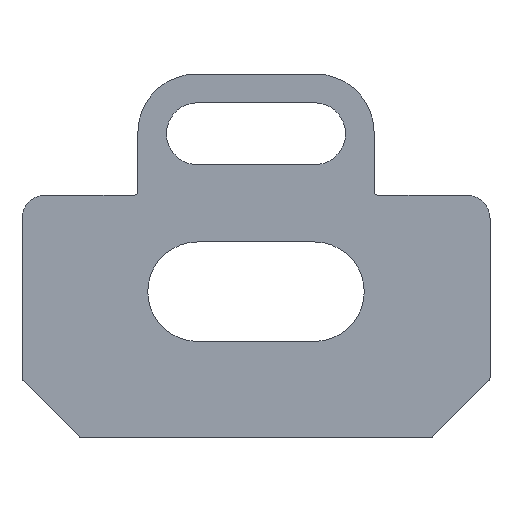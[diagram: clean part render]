
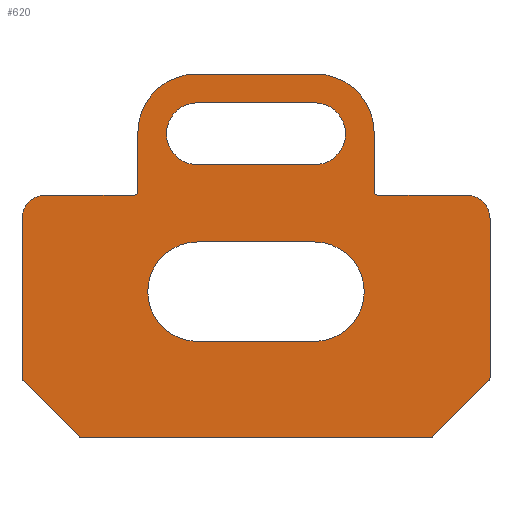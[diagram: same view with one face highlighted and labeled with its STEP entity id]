
A CAD part, front view. The second image highlights one B-rep face of the part: STEP entity #620.
In plain terms, the highlighted planar face has unit normal (0, -1, 0).
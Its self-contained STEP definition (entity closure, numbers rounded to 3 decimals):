
#16=FACE_BOUND('',#122,.T.);
#17=FACE_BOUND('',#123,.T.);
#18=CIRCLE('',#643,2.65);
#20=CIRCLE('',#647,2.65);
#22=CIRCLE('',#650,4.25);
#24=CIRCLE('',#654,4.25);
#27=CIRCLE('',#659,0.3);
#37=CIRCLE('',#672,0.3);
#38=CIRCLE('',#675,0.3);
#39=CIRCLE('',#678,0.3);
#40=CIRCLE('',#680,0.3);
#41=CIRCLE('',#683,0.3);
#42=CIRCLE('',#686,2.);
#43=CIRCLE('',#689,2.);
#44=CIRCLE('',#692,5.);
#45=CIRCLE('',#695,5.);
#89=FACE_OUTER_BOUND('',#121,.T.);
#121=EDGE_LOOP('',(#516,#517,#518,#519,#520,#521,#522,#523,#524,#525,#526,
#527,#528,#529,#530,#531,#532,#533,#534,#535));
#122=EDGE_LOOP('',(#536,#537,#538,#539));
#123=EDGE_LOOP('',(#540,#541,#542,#543));
#124=LINE('',#877,#180);
#129=LINE('',#891,#185);
#134=LINE('',#909,#190);
#138=LINE('',#920,#194);
#144=LINE('',#936,#200);
#156=LINE('',#980,#212);
#159=LINE('',#989,#215);
#165=LINE('',#1004,#221);
#169=LINE('',#1014,#225);
#171=LINE('',#1020,#227);
#173=LINE('',#1026,#229);
#176=LINE('',#1034,#232);
#178=LINE('',#1040,#234);
#179=LINE('',#1042,#235);
#180=VECTOR('',#703,10.);
#185=VECTOR('',#716,10.);
#190=VECTOR('',#735,10.);
#194=VECTOR('',#747,10.);
#200=VECTOR('',#761,10.);
#212=VECTOR('',#799,10.);
#215=VECTOR('',#808,10.);
#221=VECTOR('',#824,10.);
#225=VECTOR('',#834,10.);
#227=VECTOR('',#842,10.);
#229=VECTOR('',#850,10.);
#232=VECTOR('',#859,10.);
#234=VECTOR('',#867,10.);
#235=VECTOR('',#870,10.);
#236=VERTEX_POINT('',#875);
#237=VERTEX_POINT('',#876);
#240=VERTEX_POINT('',#884);
#242=VERTEX_POINT('',#890);
#244=VERTEX_POINT('',#899);
#245=VERTEX_POINT('',#900);
#248=VERTEX_POINT('',#908);
#250=VERTEX_POINT('',#914);
#254=VERTEX_POINT('',#926);
#255=VERTEX_POINT('',#928);
#257=VERTEX_POINT('',#934);
#275=VERTEX_POINT('',#974);
#276=VERTEX_POINT('',#978);
#277=VERTEX_POINT('',#982);
#278=VERTEX_POINT('',#983);
#279=VERTEX_POINT('',#988);
#280=VERTEX_POINT('',#992);
#281=VERTEX_POINT('',#996);
#282=VERTEX_POINT('',#998);
#283=VERTEX_POINT('',#1002);
#284=VERTEX_POINT('',#1006);
#285=VERTEX_POINT('',#1008);
#286=VERTEX_POINT('',#1012);
#287=VERTEX_POINT('',#1016);
#288=VERTEX_POINT('',#1022);
#289=VERTEX_POINT('',#1028);
#290=VERTEX_POINT('',#1032);
#291=VERTEX_POINT('',#1036);
#292=EDGE_CURVE('',#236,#237,#124,.T.);
#296=EDGE_CURVE('',#237,#240,#18,.T.);
#299=EDGE_CURVE('',#240,#242,#129,.T.);
#302=EDGE_CURVE('',#242,#236,#20,.T.);
#304=EDGE_CURVE('',#244,#245,#22,.T.);
#308=EDGE_CURVE('',#245,#248,#134,.T.);
#311=EDGE_CURVE('',#248,#250,#24,.T.);
#314=EDGE_CURVE('',#250,#244,#138,.T.);
#318=EDGE_CURVE('',#254,#255,#27,.T.);
#322=EDGE_CURVE('',#257,#254,#144,.T.);
#341=EDGE_CURVE('',#275,#257,#37,.T.);
#344=EDGE_CURVE('',#275,#276,#156,.T.);
#345=EDGE_CURVE('',#277,#278,#38,.T.);
#348=EDGE_CURVE('',#278,#279,#159,.T.);
#350=EDGE_CURVE('',#279,#280,#39,.T.);
#353=EDGE_CURVE('',#281,#282,#40,.T.);
#356=EDGE_CURVE('',#281,#283,#165,.T.);
#358=EDGE_CURVE('',#284,#285,#41,.T.);
#361=EDGE_CURVE('',#284,#286,#169,.T.);
#362=EDGE_CURVE('',#287,#276,#42,.T.);
#364=EDGE_CURVE('',#287,#282,#171,.T.);
#365=EDGE_CURVE('',#288,#286,#43,.T.);
#367=EDGE_CURVE('',#288,#280,#173,.T.);
#368=EDGE_CURVE('',#289,#283,#44,.T.);
#371=EDGE_CURVE('',#289,#290,#176,.T.);
#372=EDGE_CURVE('',#291,#290,#45,.T.);
#374=EDGE_CURVE('',#291,#285,#178,.T.);
#375=EDGE_CURVE('',#277,#255,#179,.T.);
#516=ORIENTED_EDGE('',*,*,#318,.F.);
#517=ORIENTED_EDGE('',*,*,#322,.F.);
#518=ORIENTED_EDGE('',*,*,#341,.F.);
#519=ORIENTED_EDGE('',*,*,#344,.T.);
#520=ORIENTED_EDGE('',*,*,#362,.F.);
#521=ORIENTED_EDGE('',*,*,#364,.T.);
#522=ORIENTED_EDGE('',*,*,#353,.F.);
#523=ORIENTED_EDGE('',*,*,#356,.T.);
#524=ORIENTED_EDGE('',*,*,#368,.F.);
#525=ORIENTED_EDGE('',*,*,#371,.T.);
#526=ORIENTED_EDGE('',*,*,#372,.F.);
#527=ORIENTED_EDGE('',*,*,#374,.T.);
#528=ORIENTED_EDGE('',*,*,#358,.F.);
#529=ORIENTED_EDGE('',*,*,#361,.T.);
#530=ORIENTED_EDGE('',*,*,#365,.F.);
#531=ORIENTED_EDGE('',*,*,#367,.T.);
#532=ORIENTED_EDGE('',*,*,#350,.F.);
#533=ORIENTED_EDGE('',*,*,#348,.F.);
#534=ORIENTED_EDGE('',*,*,#345,.F.);
#535=ORIENTED_EDGE('',*,*,#375,.T.);
#536=ORIENTED_EDGE('',*,*,#299,.T.);
#537=ORIENTED_EDGE('',*,*,#302,.T.);
#538=ORIENTED_EDGE('',*,*,#292,.T.);
#539=ORIENTED_EDGE('',*,*,#296,.T.);
#540=ORIENTED_EDGE('',*,*,#311,.T.);
#541=ORIENTED_EDGE('',*,*,#314,.T.);
#542=ORIENTED_EDGE('',*,*,#304,.T.);
#543=ORIENTED_EDGE('',*,*,#308,.T.);
#559=PLANE('',#698);
#620=ADVANCED_FACE('',(#89,#16,#17),#559,.T.);
#643=AXIS2_PLACEMENT_3D('',#885,#709,#710);
#647=AXIS2_PLACEMENT_3D('',#896,#721,#722);
#650=AXIS2_PLACEMENT_3D('',#901,#727,#728);
#654=AXIS2_PLACEMENT_3D('',#915,#740,#741);
#659=AXIS2_PLACEMENT_3D('',#929,#754,#755);
#672=AXIS2_PLACEMENT_3D('',#975,#793,#794);
#675=AXIS2_PLACEMENT_3D('',#984,#802,#803);
#678=AXIS2_PLACEMENT_3D('',#993,#812,#813);
#680=AXIS2_PLACEMENT_3D('',#999,#818,#819);
#683=AXIS2_PLACEMENT_3D('',#1009,#828,#829);
#686=AXIS2_PLACEMENT_3D('',#1017,#837,#838);
#689=AXIS2_PLACEMENT_3D('',#1023,#845,#846);
#692=AXIS2_PLACEMENT_3D('',#1029,#853,#854);
#695=AXIS2_PLACEMENT_3D('',#1037,#862,#863);
#698=AXIS2_PLACEMENT_3D('',#1043,#871,#872);
#703=DIRECTION('',(-1.,0.,0.));
#709=DIRECTION('center_axis',(0.,1.,0.));
#710=DIRECTION('ref_axis',(0.,0.,-1.));
#716=DIRECTION('',(1.,0.,0.));
#721=DIRECTION('center_axis',(0.,1.,0.));
#722=DIRECTION('ref_axis',(0.,0.,1.));
#727=DIRECTION('center_axis',(0.,1.,0.));
#728=DIRECTION('ref_axis',(0.,0.,-1.));
#735=DIRECTION('',(1.,0.,0.));
#740=DIRECTION('center_axis',(0.,1.,0.));
#741=DIRECTION('ref_axis',(0.,0.,1.));
#747=DIRECTION('',(-1.,0.,0.));
#754=DIRECTION('center_axis',(0.,1.,0.));
#755=DIRECTION('ref_axis',(0.383,0.,-0.924));
#761=DIRECTION('',(-0.707,0.,-0.707));
#793=DIRECTION('center_axis',(0.,1.,0.));
#794=DIRECTION('ref_axis',(0.924,0.,-0.383));
#799=DIRECTION('',(0.,0.,1.));
#802=DIRECTION('center_axis',(0.,1.,0.));
#803=DIRECTION('ref_axis',(-0.383,0.,-0.924));
#808=DIRECTION('',(-0.707,0.,0.707));
#812=DIRECTION('center_axis',(0.,1.,0.));
#813=DIRECTION('ref_axis',(-0.924,0.,-0.383));
#818=DIRECTION('center_axis',(0.,-1.,0.));
#819=DIRECTION('ref_axis',(-0.707,0.,-0.707));
#824=DIRECTION('',(0.,0.,1.));
#828=DIRECTION('center_axis',(0.,-1.,0.));
#829=DIRECTION('ref_axis',(0.707,0.,-0.707));
#834=DIRECTION('',(-1.,0.,0.));
#837=DIRECTION('center_axis',(0.,1.,0.));
#838=DIRECTION('ref_axis',(0.707,0.,0.707));
#842=DIRECTION('',(-1.,0.,0.));
#845=DIRECTION('center_axis',(0.,1.,0.));
#846=DIRECTION('ref_axis',(-0.707,0.,0.707));
#850=DIRECTION('',(0.,0.,-1.));
#853=DIRECTION('center_axis',(0.,1.,0.));
#854=DIRECTION('ref_axis',(0.707,0.,0.707));
#859=DIRECTION('',(-1.,0.,0.));
#862=DIRECTION('center_axis',(0.,1.,0.));
#863=DIRECTION('ref_axis',(-0.707,0.,0.707));
#867=DIRECTION('',(0.,0.,-1.));
#870=DIRECTION('',(1.,0.,0.));
#871=DIRECTION('center_axis',(0.,-1.,0.));
#872=DIRECTION('ref_axis',(0.,0.,-1.));
#875=CARTESIAN_POINT('',(5.,-8.65,2.6));
#876=CARTESIAN_POINT('',(-5.,-8.65,2.6));
#877=CARTESIAN_POINT('',(-2.5,-8.65,2.6));
#884=CARTESIAN_POINT('',(-5.,-8.65,7.9));
#885=CARTESIAN_POINT('Origin',(-5.,-8.65,5.25));
#890=CARTESIAN_POINT('',(5.,-8.65,7.9));
#891=CARTESIAN_POINT('',(2.5,-8.65,7.9));
#896=CARTESIAN_POINT('Origin',(5.,-8.65,5.25));
#899=CARTESIAN_POINT('',(-5.,-8.65,-12.5));
#900=CARTESIAN_POINT('',(-5.,-8.65,-4.));
#901=CARTESIAN_POINT('Origin',(-5.,-8.65,-8.25));
#908=CARTESIAN_POINT('',(5.,-8.65,-4.));
#909=CARTESIAN_POINT('',(2.5,-8.65,-4.));
#914=CARTESIAN_POINT('',(5.,-8.65,-12.5));
#915=CARTESIAN_POINT('Origin',(5.,-8.65,-8.25));
#920=CARTESIAN_POINT('',(-2.5,-8.65,-12.5));
#926=CARTESIAN_POINT('',(15.088,-8.65,-20.662));
#928=CARTESIAN_POINT('',(14.876,-8.65,-20.75));
#929=CARTESIAN_POINT('Origin',(14.876,-8.65,-20.45));
#934=CARTESIAN_POINT('',(19.912,-8.65,-15.838));
#936=CARTESIAN_POINT('',(16.388,-8.65,-19.363));
#974=CARTESIAN_POINT('',(20.,-8.65,-15.626));
#975=CARTESIAN_POINT('Origin',(19.7,-8.65,-15.626));
#978=CARTESIAN_POINT('',(20.,-8.65,-2.));
#980=CARTESIAN_POINT('',(20.,-8.65,0.));
#982=CARTESIAN_POINT('',(-14.876,-8.65,-20.75));
#983=CARTESIAN_POINT('',(-15.088,-8.65,-20.662));
#984=CARTESIAN_POINT('Origin',(-14.876,-8.65,-20.45));
#988=CARTESIAN_POINT('',(-19.912,-8.65,-15.838));
#989=CARTESIAN_POINT('',(-16.388,-8.65,-19.363));
#992=CARTESIAN_POINT('',(-20.,-8.65,-15.626));
#993=CARTESIAN_POINT('Origin',(-19.7,-8.65,-15.626));
#996=CARTESIAN_POINT('',(10.1,-8.65,0.3));
#998=CARTESIAN_POINT('',(10.4,-8.65,0.));
#999=CARTESIAN_POINT('Origin',(10.4,-8.65,0.3));
#1002=CARTESIAN_POINT('',(10.1,-8.65,5.35));
#1004=CARTESIAN_POINT('',(10.1,-8.65,10.35));
#1006=CARTESIAN_POINT('',(-10.4,-8.65,0.));
#1008=CARTESIAN_POINT('',(-10.1,-8.65,0.3));
#1009=CARTESIAN_POINT('Origin',(-10.4,-8.65,0.3));
#1012=CARTESIAN_POINT('',(-18.,-8.65,0.));
#1014=CARTESIAN_POINT('',(-20.,-8.65,0.));
#1016=CARTESIAN_POINT('',(18.,-8.65,0.));
#1017=CARTESIAN_POINT('Origin',(18.,-8.65,-2.));
#1020=CARTESIAN_POINT('',(10.1,-8.65,0.));
#1022=CARTESIAN_POINT('',(-20.,-8.65,-2.));
#1023=CARTESIAN_POINT('Origin',(-18.,-8.65,-2.));
#1026=CARTESIAN_POINT('',(-20.,-8.65,-20.75));
#1028=CARTESIAN_POINT('',(5.1,-8.65,10.35));
#1029=CARTESIAN_POINT('Origin',(5.1,-8.65,5.35));
#1032=CARTESIAN_POINT('',(-5.1,-8.65,10.35));
#1034=CARTESIAN_POINT('',(-10.1,-8.65,10.35));
#1036=CARTESIAN_POINT('',(-10.1,-8.65,5.35));
#1037=CARTESIAN_POINT('Origin',(-5.1,-8.65,5.35));
#1040=CARTESIAN_POINT('',(-10.1,-8.65,0.));
#1042=CARTESIAN_POINT('',(20.,-8.65,-20.75));
#1043=CARTESIAN_POINT('Origin',(0.,-8.65,-5.2));
